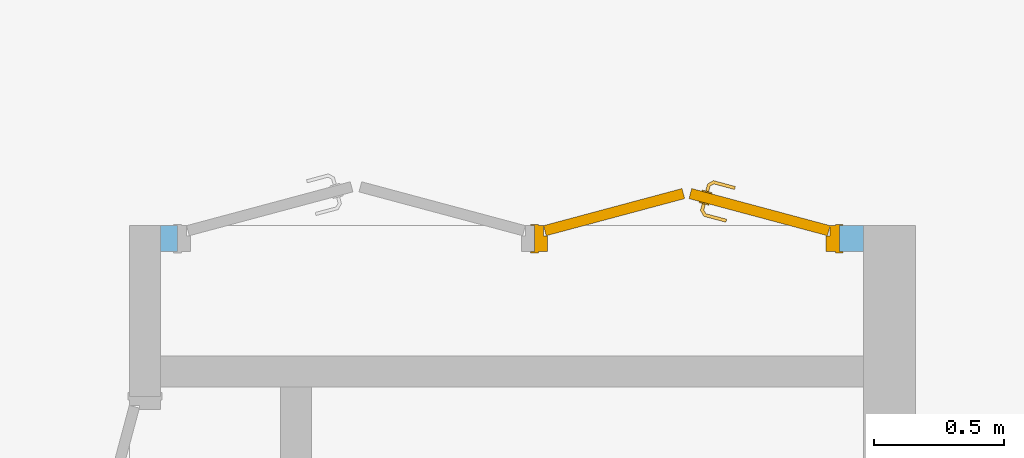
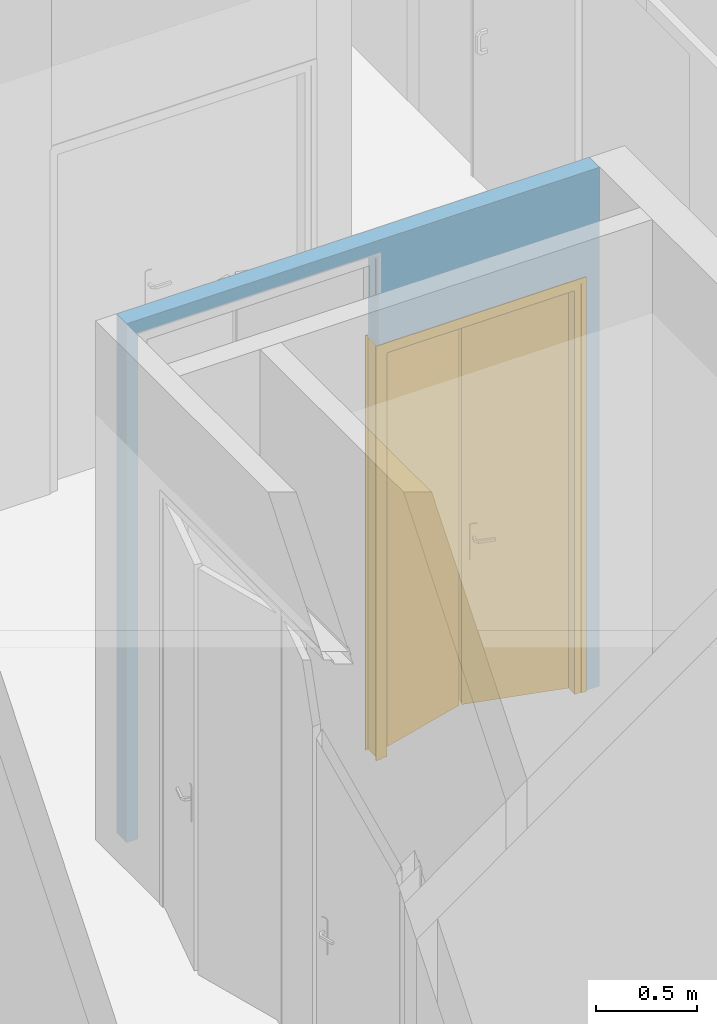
# One storey, part 196 of 240: 1 door, 2 openings, plus 1 element that does not belong to this part.
"""IFC2X3 building model written with IfcOpenShell, lengths in centimetres."""

from ifc_helpers import new_model, entity, si_unit, converted_unit, derived_unit, direction, frame, frame_2d, origin, place, context, subcontext, project, spatial, rectangle, extrude, faceted_brep, source, transform, mapped, material, material_list, layer, layer_set, layer_usage, type_object, type_shapes, element, fill, save


model = new_model("IFC2X3")

# Units and contexts
model_context = context("Model", 3, precision=0.001, world=origin(), true_north=direction((6.12303176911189e-17, 1.0)))
body_context = subcontext(model_context, "Body", "Model", "MODEL_VIEW")
ifc_project = project(units=[si_unit("LENGTHUNIT", "METRE", prefix="CENTI"), si_unit("AREAUNIT", "SQUARE_METRE"), si_unit("VOLUMEUNIT", "CUBIC_METRE"), converted_unit("PLANEANGLEUNIT", "DEGREE", entity("IfcRatioMeasure", 0.0174532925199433), si_unit("PLANEANGLEUNIT", "RADIAN"), dimensions=[0, 0, 0, 0, 0, 0, 0]), si_unit("MASSUNIT", "GRAM", prefix="KILO"), derived_unit("MASSDENSITYUNIT", [(si_unit("MASSUNIT", "GRAM", prefix="KILO"), 1), (si_unit("LENGTHUNIT", "METRE"), -3)]), si_unit("TIMEUNIT", "SECOND"), si_unit("FREQUENCYUNIT", "HERTZ"), si_unit("THERMODYNAMICTEMPERATUREUNIT", "DEGREE_CELSIUS"), derived_unit("THERMALTRANSMITTANCEUNIT", [(si_unit("MASSUNIT", "GRAM", prefix="KILO"), 1), (si_unit("THERMODYNAMICTEMPERATUREUNIT", "KELVIN"), -1), (si_unit("TIMEUNIT", "SECOND"), -3)]), derived_unit("VOLUMETRICFLOWRATEUNIT", [(si_unit("LENGTHUNIT", "METRE"), 3), (si_unit("TIMEUNIT", "SECOND"), -1)]), si_unit("ELECTRICCURRENTUNIT", "AMPERE"), si_unit("ELECTRICVOLTAGEUNIT", "VOLT"), si_unit("POWERUNIT", "WATT"), si_unit("FORCEUNIT", "NEWTON", prefix="KILO"), si_unit("ILLUMINANCEUNIT", "LUX"), si_unit("LUMINOUSFLUXUNIT", "LUMEN"), si_unit("LUMINOUSINTENSITYUNIT", "CANDELA"), derived_unit("USERDEFINED", [(si_unit("MASSUNIT", "GRAM", prefix="KILO"), -1), (si_unit("LENGTHUNIT", "METRE"), -2), (si_unit("TIMEUNIT", "SECOND"), 3), (si_unit("LUMINOUSFLUXUNIT", "LUMEN"), 1)]), derived_unit("LINEARVELOCITYUNIT", [(si_unit("LENGTHUNIT", "METRE"), 1), (si_unit("TIMEUNIT", "SECOND"), -1)]), si_unit("PRESSUREUNIT", "PASCAL"), derived_unit("USERDEFINED", [(si_unit("LENGTHUNIT", "METRE"), -2), (si_unit("MASSUNIT", "GRAM", prefix="KILO"), 1), (si_unit("TIMEUNIT", "SECOND"), -2)])], contexts=[model_context])

# Site, building, storey
site_placement = place(None, frame((-2781.94577612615, 7442.24238424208, 0.0)))
site = spatial("IfcSite", under=ifc_project, at=site_placement, Name="Default", CompositionType="ELEMENT")
building_placement = place(site_placement, origin())
building = spatial("IfcBuilding", under=site, at=building_placement, CompositionType="ELEMENT")
storey_placement = place(building_placement, origin())
storey = spatial("IfcBuildingStorey", under=building, at=storey_placement, Name="N00 - COO", CompositionType="ELEMENT", Elevation=0.0)

# Wall, openings, door
ifc_material_1 = material(Name="01 - Enduit/Plâtre")
ifc_layer_1 = layer(ifc_material_1, 1.3)
ifc_material_2 = material(Name="00 - Isolant")
ifc_layer_2 = layer(ifc_material_2, 7.4)
ifc_layer_3 = layer(ifc_material_1, 1.3)
ifc_layer_set = layer_set([ifc_layer_1, ifc_layer_2, ifc_layer_3], Name="Mur de base:06 - cloisons - Ba13 10cm")
ifc_layer_usage = layer_usage(ifc_layer_set, "AXIS2", "NEGATIVE", 5.0)
wall_type = type_object("IfcWallType", Name="Mur de base:06 - cloisons - Ba13 10cm", PredefinedType="STANDARD", material=ifc_layer_set)
wall_placement = place(building_placement, frame((-10464.6130476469, -2678.07903364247, 0.0)))
wall = element("IfcWallStandardCase", 1, at=wall_placement, inside=storey, type_object=wall_type, material=ifc_layer_usage, Name="Mur de base:06 - cloisons - Ba13 10cm", ObjectType="Mur de base:06 - cloisons - Ba13 10cm", context=body_context, shape_type="SweptSolid", body=[
    extrude(rectangle(XDim=269.778497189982, YDim=10.0000000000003, at=frame_2d((134.889248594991, -1.86517468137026e-14), x_axis=(-1.0, 0.0))), origin(), (0.0, 0.0, 1.0), 313.0),
])
opening_1_placement = place(wall_placement, frame((6.50000000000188, -5.0, 0.0)))
element("IfcOpeningElement", 2, at=opening_1_placement, cuts=wall, Name="Int. Double:PP Placard (1.26m x 2.04m):1", ObjectType="Opening", context=body_context, shape_type="SweptSolid", body=[
    extrude(rectangle(XDim=304.500000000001, YDim=137.0, at=frame_2d((152.250000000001, 68.5000000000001), x_axis=(1.0, 0.0))), frame((0.0, 0.0, 0.0), z_axis=(0.0, 1.0, 0.0), x_axis=(0.0, 0.0, 1.0)), (0.0, 0.0, 1.0), 10.0),
])
opening_2_placement = place(wall_placement, frame((143.500000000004, -5.0, 0.0)))
opening_2 = element("IfcOpeningElement", 3, at=opening_2_placement, cuts=wall, Name="Int. Double:PP Placard (1.10m x 2.50m):1", ObjectType="Opening", context=body_context, shape_type="SweptSolid", body=[
    extrude(rectangle(XDim=248.500000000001, YDim=117.0, at=frame_2d((124.250000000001, 58.5000000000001), x_axis=(1.0, 0.0))), frame((0.0, 0.0, 0.0), z_axis=(0.0, 1.0, 0.0), x_axis=(0.0, 0.0, 1.0)), (0.0, 0.0, 1.0), 10.0),
])
ifc_material_3 = material(Name="Bois - Panneau de porte")
ifc_material_4 = material(Name="Finition Peinture - Blanc satiné")
ifc_material_5 = material(Name="Bois - Cadre de porte")
ifc_material_list_1 = material_list([ifc_material_3, ifc_material_4, ifc_material_5])
ifc_material_list_2 = material_list([ifc_material_3, ifc_material_4, ifc_material_5])
door_style = type_object("IfcDoorStyle", Name="PP Placard (1.10m x 2.50m)", ConstructionType="NOTDEFINED", OperationType="DOUBLE_DOOR_SINGLE_SWING", ParameterTakesPrecedence=False, Sizeable=False, material=ifc_material_list_2)
shared_shape = source(origin(), body_context, "Body", "Brep", [
    faceted_brep([(66.3388033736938, -10.3713441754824, 245.0), (119.464723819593, 3.86370330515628, 245.0), (119.464723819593, 3.86370330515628, 0.0), (66.3388033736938, -10.3713441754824, 0.0), (67.3740795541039, -14.2350474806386, 245.0), (67.3740795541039, -14.2350474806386, 0.0), (120.500000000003, 0.0, 0.0), (120.500000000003, 0.0, 245.0)], [[[0, 1, 2, 3]], [[4, 5, 6, 7]], [[1, 0, 4, 7]], [[2, 1, 7, 6]], [[3, 2, 6, 5]], [[0, 3, 5, 4]]]),
    faceted_brep([(59.632807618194, -13.6827342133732, 87.0), (59.632807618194, -13.6827342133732, 108.0), (58.7009559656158, -13.4330453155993, 108.399601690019), (57.7009559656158, -13.1650961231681, 108.535898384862), (56.7009559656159, -12.897146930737, 108.399601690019), (55.7691043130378, -12.6474580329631, 108.0), (55.7691043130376, -12.6474580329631, 87.0), (56.7009559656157, -12.897146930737, 86.6003983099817), (57.7009559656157, -13.1650961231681, 86.464101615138), (58.7009559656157, -13.4330453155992, 86.6003983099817), (59.7622171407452, -13.1997713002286, 108.0), (59.7622171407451, -13.1997713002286, 87.0), (58.830365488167, -12.9500824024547, 86.6003983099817), (57.830365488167, -12.6821332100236, 86.464101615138), (56.830365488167, -12.4141840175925, 86.6003983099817), (55.8985138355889, -12.1644951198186, 87.0), (55.898513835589, -12.1644951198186, 108.0), (56.8303654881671, -12.4141840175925, 108.399601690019), (57.8303654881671, -12.6821332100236, 108.535898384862), (58.8303654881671, -12.9500824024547, 108.399601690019)], [[[0, 1, 2, 3, 4, 5, 6, 7, 8, 9]], [[10, 11, 12, 13, 14, 15, 16, 17, 18, 19]], [[9, 12, 11, 0]], [[8, 13, 12, 9]], [[7, 14, 13, 8]], [[7, 6, 15, 14]], [[15, 6, 5, 16]], [[4, 17, 16, 5]], [[3, 18, 17, 4]], [[2, 19, 18, 3]], [[2, 1, 10, 19]], [[11, 10, 1, 0]]]),
    faceted_brep([(60.7974933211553, -9.33606799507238, 87.0), (60.7974933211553, -9.33606799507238, 108.0), (59.8656416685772, -9.08637909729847, 108.399601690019), (58.8656416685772, -8.81842990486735, 108.535898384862), (57.8656416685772, -8.55048071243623, 108.399601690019), (56.9337900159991, -8.30079181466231, 108.0), (56.933790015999, -8.30079181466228, 87.0), (57.8656416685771, -8.55048071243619, 86.6003983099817), (58.8656416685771, -8.81842990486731, 86.464101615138), (59.865641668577, -9.08637909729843, 86.6003983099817), (58.9950511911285, -8.33546699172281, 108.535898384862), (59.9950511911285, -8.60341618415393, 108.399601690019), (60.9269028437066, -8.85310508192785, 108.0), (60.9269028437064, -8.85310508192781, 87.0), (59.9950511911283, -8.6034161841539, 86.6003983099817), (58.9950511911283, -8.33546699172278, 86.464101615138), (57.9950511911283, -8.06751779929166, 86.6003983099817), (57.0631995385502, -7.81782890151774, 87.0), (57.0631995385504, -7.81782890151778, 108.0), (57.9950511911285, -8.0675177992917, 108.399601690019)], [[[0, 1, 2, 3, 4, 5, 6, 7, 8, 9]], [[10, 11, 12, 13, 14, 15, 16, 17, 18, 19]], [[4, 19, 18, 5]], [[3, 10, 19, 4]], [[2, 11, 10, 3]], [[2, 1, 12, 11]], [[13, 12, 1, 0]], [[9, 14, 13, 0]], [[8, 15, 14, 9]], [[7, 16, 15, 8]], [[7, 6, 17, 16]], [[17, 6, 5, 18]]]),
    faceted_brep([(57.5053271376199, -13.1126775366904, 100.778044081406), (57.8965847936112, -13.2175147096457, 100.778044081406), (58.2805114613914, -13.3203875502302, 100.699999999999), (58.2805114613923, -13.3203875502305, 99.2999999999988), (57.896584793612, -13.217514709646, 99.221955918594), (57.5053271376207, -13.1126775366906, 99.2219559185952), (57.1214004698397, -13.0098046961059, 99.3000000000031), (57.1214004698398, -13.0098046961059, 100.7), (57.2235368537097, -15.7293638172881, 100.778044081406), (57.56485219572, -15.9912642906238, 100.7), (56.8757041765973, -15.4624624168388, 100.778044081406), (55.2007309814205, -16.4295086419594, 100.778044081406), (55.2579580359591, -16.8641912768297, 100.778044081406), (56.5343888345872, -15.2005619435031, 100.7), (56.534388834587, -15.200561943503, 99.3000000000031), (56.875704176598, -15.4624624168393, 99.2219559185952), (57.2235368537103, -15.7293638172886, 99.221955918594), (55.2579580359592, -16.8641912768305, 99.221955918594), (55.2007309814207, -16.4295086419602, 99.2219559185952), (57.5648521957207, -15.9912642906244, 99.2999999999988), (55.3141128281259, -17.2907292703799, 100.7), (55.1445761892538, -16.0029706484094, 100.7), (55.1445761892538, -16.0029706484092, 99.3000000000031), (55.314112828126, -17.2907292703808, 99.2999999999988), (46.8486006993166, -15.0224021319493, 100.7), (46.951473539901, -14.6384754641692, 100.778044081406), (47.0563107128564, -14.2472178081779, 100.778044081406), (47.1591835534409, -13.8632911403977, 100.699999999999), (47.1591835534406, -13.8632911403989, 99.3000000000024), (47.0563107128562, -14.2472178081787, 99.2219559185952), (46.9514735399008, -14.63847546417, 99.221955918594), (46.8486006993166, -15.0224021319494, 99.2999999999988), (51.0761022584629, -15.5339920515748, 100.78786867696), (51.4571239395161, -16.257252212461, 100.7), (51.1518798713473, -14.9331308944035, 100.7), (51.1518798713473, -14.9331308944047, 99.3000000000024), (51.0761022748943, -15.5339920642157, 99.2121313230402), (51.457124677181, -16.2572524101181, 99.2999999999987)], [[[0, 1, 2, 3, 4, 5, 6, 7]], [[2, 1, 8, 9]], [[1, 0, 10, 11, 12, 8]], [[0, 7, 13, 10]], [[14, 13, 7, 6]], [[5, 15, 14, 6]], [[5, 4, 16, 17, 18, 15]], [[3, 19, 16, 4]], [[9, 19, 3, 2]], [[9, 8, 12, 20]], [[10, 13, 21, 11]], [[22, 21, 13, 14]], [[14, 15, 18, 22]], [[16, 19, 23, 17]], [[20, 23, 19, 9]], [[24, 25, 26, 27, 28, 29, 30, 31]], [[32, 25, 33]], [[33, 25, 24]], [[33, 20, 12]], [[11, 34, 32]], [[34, 11, 21]], [[27, 26, 34]], [[32, 26, 25]], [[32, 34, 26]], [[32, 33, 12]], [[11, 32, 12]], [[21, 22, 35, 28, 27, 34]], [[36, 29, 35]], [[30, 36, 37]], [[18, 35, 22]], [[29, 28, 35]], [[30, 37, 31]], [[37, 17, 23]], [[36, 17, 37]], [[36, 18, 17]], [[36, 35, 18]], [[29, 36, 30]], [[23, 20, 33, 24, 31, 37]]]),
    faceted_brep([(58.799422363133, -8.28304840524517, 99.2219559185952), (59.1906800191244, -8.38788557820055, 99.221955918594), (59.5746066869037, -8.49075841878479, 99.2999999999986), (59.5746066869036, -8.49075841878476, 100.7), (59.1906800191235, -8.38788557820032, 100.778044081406), (58.7994223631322, -8.28304840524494, 100.778044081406), (58.415495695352, -8.18017556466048, 100.7), (58.4154956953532, -8.18017556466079, 99.3000000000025), (58.9974556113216, -6.00827159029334, 100.7), (58.9974556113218, -6.00827159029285, 99.3000000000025), (59.4239936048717, -5.95211679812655, 100.778044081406), (59.858676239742, -5.894889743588, 100.778044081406), (58.7141254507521, -3.9124696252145, 100.778044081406), (58.4472240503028, -4.26030230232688, 100.778044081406), (60.285214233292, -5.83873495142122, 100.7), (60.2852142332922, -5.8387349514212, 99.2999999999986), (59.858676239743, -5.89488974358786, 99.221955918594), (59.4239936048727, -5.95211679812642, 99.2219559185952), (58.4472240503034, -4.26030230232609, 99.2219559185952), (58.7141254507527, -3.91246962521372, 99.221955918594), (58.1853235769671, -4.60161764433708, 100.7), (58.1853235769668, -4.60161764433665, 99.3000000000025), (58.9760259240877, -3.57115428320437, 100.7), (58.9760259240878, -3.57115428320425, 99.2999999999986), (50.3134642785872, -2.08086794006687, 100.778044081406), (50.4183014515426, -1.68961028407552, 100.778044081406), (50.521174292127, -1.30568361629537, 100.7), (50.5211742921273, -1.30568361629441, 99.2999999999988), (50.4183014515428, -1.68961028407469, 99.221955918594), (50.3134642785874, -2.08086794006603, 99.2219559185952), (50.2105914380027, -2.46479460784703, 99.3000000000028), (50.2105914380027, -2.46479460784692, 100.7), (54.197957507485, -3.53320612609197, 100.7), (54.1979586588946, -3.53320643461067, 99.3000000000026), (54.4327627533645, -2.9749562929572, 100.78786867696), (55.1190370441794, -2.53767722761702, 100.7), (55.119037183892, -2.53767726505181, 99.2999999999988), (54.4327627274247, -2.97495629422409, 99.2121313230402)], [[[0, 1, 2, 3, 4, 5, 6, 7]], [[8, 7, 6]], [[7, 8, 9]], [[5, 10, 8, 6]], [[5, 4, 11, 12, 13, 10]], [[3, 14, 11, 4]], [[14, 3, 2, 15]], [[2, 1, 16, 15]], [[1, 0, 17, 18, 19, 16]], [[0, 7, 9, 17]], [[20, 21, 9, 8]], [[8, 10, 13, 20]], [[14, 22, 12, 11]], [[23, 22, 14, 15]], [[15, 16, 19, 23]], [[17, 9, 21, 18]], [[24, 25, 26, 27, 28, 29, 30, 31]], [[21, 20, 32, 31, 30, 33]], [[34, 24, 32]], [[25, 34, 35]], [[13, 32, 20]], [[24, 31, 32]], [[25, 35, 26]], [[35, 12, 22]], [[34, 12, 35]], [[34, 13, 12]], [[34, 32, 13]], [[24, 34, 25]], [[22, 23, 36, 27, 26, 35]], [[37, 28, 36]], [[36, 28, 27]], [[36, 23, 19]], [[18, 33, 37]], [[33, 18, 21]], [[30, 29, 33]], [[37, 29, 28]], [[37, 33, 29]], [[37, 36, 19]], [[18, 37, 19]]]),
    faceted_brep([(64.6611966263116, -10.3713441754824, 245.0), (64.6611966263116, -10.3713441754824, 0.0), (11.5352761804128, 3.86370330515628, 0.0), (11.5352761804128, 3.86370330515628, 245.0), (63.6259204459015, -14.2350474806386, 245.0), (10.5000000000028, 0.0, 245.0), (10.5000000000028, 0.0, 0.0), (63.6259204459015, -14.2350474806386, 0.0)], [[[0, 1, 2, 3]], [[4, 5, 6, 7]], [[3, 5, 4, 0]], [[2, 6, 5, 3]], [[1, 7, 6, 2]], [[0, 4, 7, 1]]]),
    faceted_brep([(124.0, 0.0, 0.0), (120.500000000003, 0.0, 0.0), (120.500000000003, 4.0, 0.0), (119.0, 4.0, 0.0), (119.0, 10.0, 0.0), (124.0, 10.0, 0.0), (124.0, 10.0, 248.500000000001), (124.0, 0.0, 248.500000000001), (119.0, 10.0, 243.5), (12.0, 10.0, 243.5), (12.0, 10.0, 0.0), (7.0, 10.0, 0.0), (7.0, 10.0, 248.500000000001), (119.0, 4.0, 243.5), (120.500000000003, 4.0, 245.0), (10.5000000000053, 4.0, 245.0), (10.5000000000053, 4.0, 0.0), (12.0, 4.0, 0.0), (12.0, 4.0, 243.5), (120.500000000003, 0.0, 245.0), (7.0, 0.0, 248.500000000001), (7.0, 0.0, 0.0), (10.5000000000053, 0.0, 0.0), (10.5000000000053, 0.0, 245.0)], [[[0, 1, 2, 3, 4, 5]], [[5, 6, 7, 0]], [[4, 8, 9, 10, 11, 12, 6, 5]], [[3, 13, 8, 4]], [[2, 14, 15, 16, 17, 18, 13, 3]], [[1, 19, 14, 2]], [[0, 7, 20, 21, 22, 23, 19, 1]], [[12, 11, 21, 20]], [[21, 11, 10, 17, 16, 22]], [[18, 17, 10, 9]], [[23, 22, 16, 15]], [[6, 12, 20, 7]], [[13, 18, 9, 8]], [[19, 23, 15, 14]]]),
    faceted_brep([(122.500000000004, 10.0, 0.0), (122.500000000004, 10.5000000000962, 0.0), (125.500000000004, 10.5000000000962, 0.0), (125.500000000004, 10.0, 0.0), (125.500000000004, 10.0, 250.0), (5.50000000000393, 10.0, 250.0), (5.50000000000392, 10.0, 0.0), (8.50000000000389, 10.0, 0.0), (8.50000000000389, 10.0, 247.0), (122.500000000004, 10.0, 247.0), (125.500000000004, 10.5000000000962, 250.0), (122.500000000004, 10.5000000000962, 247.0), (8.50000000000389, 10.5000000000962, 247.0), (8.50000000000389, 10.5000000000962, 0.0), (5.50000000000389, 10.5000000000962, 0.0), (5.50000000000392, 10.5000000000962, 250.0)], [[[0, 1, 2, 3]], [[3, 4, 5, 6, 7, 8, 9, 0]], [[2, 10, 4, 3]], [[1, 11, 12, 13, 14, 15, 10, 2]], [[0, 9, 11, 1]], [[8, 7, 13, 12]], [[7, 6, 14, 13]], [[15, 14, 6, 5]], [[10, 15, 5, 4]], [[9, 8, 12, 11]]]),
    faceted_brep([(125.500000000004, -0.500000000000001, 0.0), (125.500000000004, -0.500000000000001, 250.0), (5.50000000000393, -0.500000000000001, 250.0), (5.50000000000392, -0.500000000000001, 0.0), (8.50000000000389, -0.500000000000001, 0.0), (8.50000000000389, -0.500000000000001, 247.0), (122.500000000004, -0.500000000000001, 247.0), (122.500000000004, -0.500000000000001, 0.0), (125.500000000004, 0.0, 0.0), (125.500000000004, 0.0, 250.0), (122.500000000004, 0.0, 0.0), (122.500000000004, 0.0, 247.0), (8.50000000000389, 0.0, 247.0), (8.50000000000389, 0.0, 0.0), (5.50000000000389, 0.0, 0.0), (5.50000000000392, 0.0, 250.0)], [[[0, 1, 2, 3, 4, 5, 6, 7]], [[8, 9, 1, 0]], [[10, 11, 12, 13, 14, 15, 9, 8]], [[7, 6, 11, 10]], [[5, 4, 13, 12]], [[15, 14, 3, 2]], [[9, 15, 2, 1]], [[6, 5, 12, 11]], [[4, 3, 14, 13]], [[7, 10, 8, 0]]]),
])
type_shapes(door_style, [shared_shape])
door_placement = place(opening_2_placement, frame((124.0, 10.0, 0.0), z_axis=(0.0, 0.0, 1.0), x_axis=(-1.0, 0.0, 0.0)))
door = element("IfcDoor", 4, at=door_placement, inside=storey, type_object=door_style, material=ifc_material_list_1, Name="Int. Double:PP Placard (1.10m x 2.50m)", ObjectType="Int. Double:PP Placard (1.10m x 2.50m)", OverallHeight=248.500000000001, OverallWidth=116.999999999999, context=body_context, shape_type="MappedRepresentation", body=[
    mapped(shared_shape, transform((0.0, 0.0, 0.0), scale=1.0)),
])
fill(opening_2, door)

save(model, "model.ifc")
